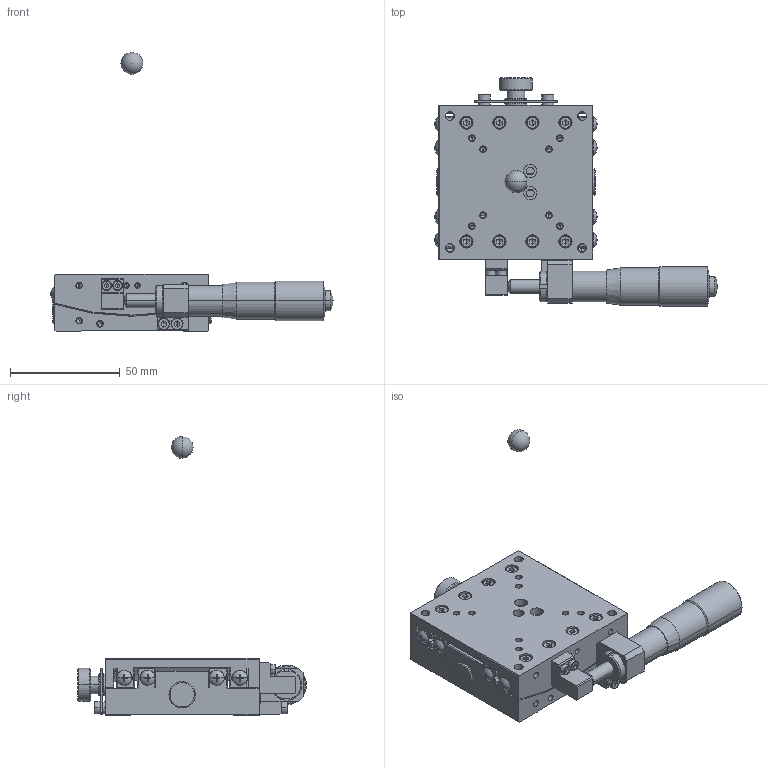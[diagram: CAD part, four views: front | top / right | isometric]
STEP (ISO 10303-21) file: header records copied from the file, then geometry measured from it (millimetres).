
FILE_DESCRIPTION (( 'STEP AP214' ), '1' );
FILE_NAME ('ST07A-S1M.STEP', '2007-01-19T01:35:36', ( ' ' ), ( ' ' ), 'SwSTEP 2.0', 'SolidWorks 2006052', '' );
FILE_SCHEMA (( 'AUTOMOTIVE_DESIGN' ));
Length unit declared in the file: millimetre
Products named in the file (5): ST07A-S1M-Part-1; MICROMETERHEAD(MHN4-25T)spindle-2; 002600-1011(3D); 002600-1020(3D); ST07A-S1M
Assembly tree (4 placements, depth 2):
  ST07A-S1M
    002600-1020(3D)
    002600-1011(3D)
    ST07A-S1M-Part-1
    MICROMETERHEAD(MHN4-25T)spindle-2
Bounding box: 128.39 x 104 x 127 mm (x, y, z)
Volume: 127095.4 mm3; surface area: 60733.4 mm2
Topology: 4 solids, 35 shells, 1760 faces, 4122 edges, 2415 vertices
Faces by surface type: plane 719, cylinder 574, cone 437, sphere 22, torus 8
Entity records: 53043 total; most frequent: CARTESIAN_POINT 12713, DIRECTION 8789, ORIENTED_EDGE 8014, EDGE_CURVE 4007, AXIS2_PLACEMENT_3D 3388, VERTEX_POINT 2412, LINE 2013, VECTOR 2013
